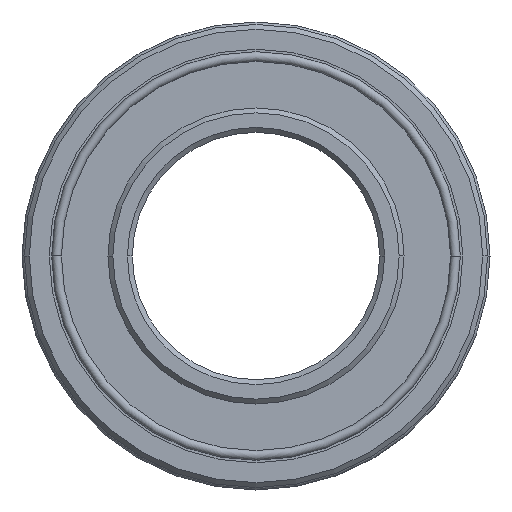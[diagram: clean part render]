
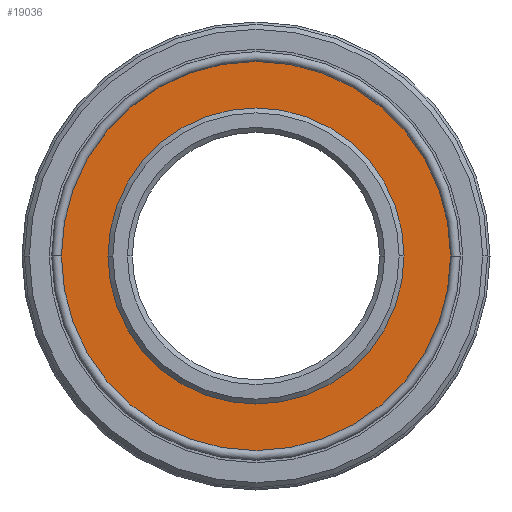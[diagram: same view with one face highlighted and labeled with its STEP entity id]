
A CAD part, left-side view. The second image highlights one B-rep face of the part: STEP entity #19036.
In plain terms, the highlighted planar face has unit normal (-1, 0, 0).
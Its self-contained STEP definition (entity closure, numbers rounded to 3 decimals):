
#2376 = DIRECTION ( 'NONE',  ( 0., -1., 0. ) ) ;
#2377 = DIRECTION ( 'NONE',  ( -1., 0., 0. ) ) ;
#2378 = CARTESIAN_POINT ( 'NONE',  ( 0., 0., 0. ) ) ;
#2379 = AXIS2_PLACEMENT_3D ( 'NONE', #2378, #2377, #2376 ) ;
#2386 = CIRCLE ( 'NONE', #2379, 40. ) ;
#2405 = FACE_BOUND ( 'NONE', #19039, .T. ) ;
#2436 = DIRECTION ( 'NONE',  ( 0., -1., 0. ) ) ;
#2437 = DIRECTION ( 'NONE',  ( -1., 0., 0. ) ) ;
#2438 = CARTESIAN_POINT ( 'NONE',  ( 0., 0., 0. ) ) ;
#2439 = AXIS2_PLACEMENT_3D ( 'NONE', #2438, #2437, #2436 ) ;
#2440 = CIRCLE ( 'NONE', #2439, 30.425 ) ;
#2441 = DIRECTION ( 'NONE',  ( 0., -1., 0. ) ) ;
#2442 = DIRECTION ( 'NONE',  ( -1., 0., 0. ) ) ;
#2443 = CARTESIAN_POINT ( 'NONE',  ( 0., 0., 0. ) ) ;
#2444 = AXIS2_PLACEMENT_3D ( 'NONE', #2443, #2442, #2441 ) ;
#2445 = PLANE ( 'NONE',  #2444 ) ;
#2446 = FACE_OUTER_BOUND ( 'NONE', #19048, .T. ) ;
#16813 = VERTEX_POINT ( 'NONE', #34010 ) ;
#16915 = EDGE_CURVE ( 'NONE', #16813, #16918, #34118, .T. ) ;
#16918 = VERTEX_POINT ( 'NONE', #34113 ) ;
#17068 = VERTEX_POINT ( 'NONE', #34263 ) ;
#17071 = EDGE_CURVE ( 'NONE', #17074, #17068, #34261, .T. ) ;
#17074 = VERTEX_POINT ( 'NONE', #34262 ) ;
#18987 = ORIENTED_EDGE ( 'NONE', *, *, #17071, .T. ) ;
#18989 = ORIENTED_EDGE ( 'NONE', *, *, #18991, .T. ) ;
#18991 = EDGE_CURVE ( 'NONE', #17068, #17074, #2386, .T. ) ;
#19036 = ADVANCED_FACE ( 'NONE', ( #2405, #2446 ), #2445, .T. ) ;
#19039 = EDGE_LOOP ( 'NONE', ( #19041, #19045 ) ) ;
#19041 = ORIENTED_EDGE ( 'NONE', *, *, #19043, .F. ) ;
#19043 = EDGE_CURVE ( 'NONE', #16918, #16813, #2440, .T. ) ;
#19045 = ORIENTED_EDGE ( 'NONE', *, *, #16915, .F. ) ;
#19048 = EDGE_LOOP ( 'NONE', ( #18987, #18989 ) ) ;
#34010 = CARTESIAN_POINT ( 'NONE',  ( 0., -30.425, 0. ) ) ;
#34113 = CARTESIAN_POINT ( 'NONE',  ( 0., 30.425, 0. ) ) ;
#34114 = DIRECTION ( 'NONE',  ( 0., -1., 0. ) ) ;
#34115 = DIRECTION ( 'NONE',  ( -1., 0., 0. ) ) ;
#34116 = CARTESIAN_POINT ( 'NONE',  ( 0., 0., 0. ) ) ;
#34117 = AXIS2_PLACEMENT_3D ( 'NONE', #34116, #34115, #34114 ) ;
#34118 = CIRCLE ( 'NONE', #34117, 30.425 ) ;
#34257 = DIRECTION ( 'NONE',  ( 0., -1., 0. ) ) ;
#34258 = DIRECTION ( 'NONE',  ( -1., 0., 0. ) ) ;
#34259 = CARTESIAN_POINT ( 'NONE',  ( 0., 0., 0. ) ) ;
#34260 = AXIS2_PLACEMENT_3D ( 'NONE', #34259, #34258, #34257 ) ;
#34261 = CIRCLE ( 'NONE', #34260, 40. ) ;
#34262 = CARTESIAN_POINT ( 'NONE',  ( 0., -40., 0. ) ) ;
#34263 = CARTESIAN_POINT ( 'NONE',  ( 0., 40., 0. ) ) ;
